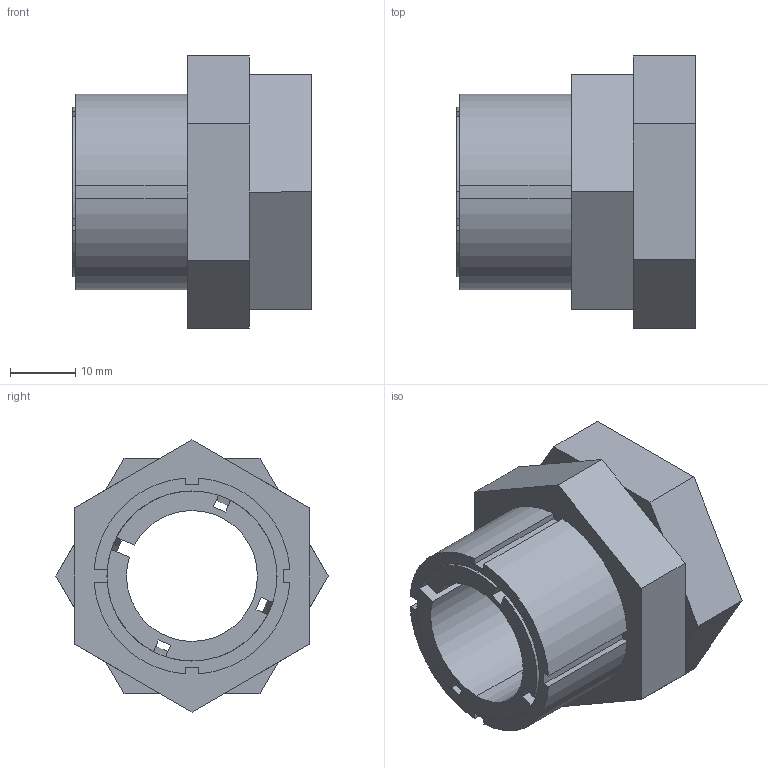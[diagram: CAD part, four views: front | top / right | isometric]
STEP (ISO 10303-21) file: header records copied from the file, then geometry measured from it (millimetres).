
FILE_DESCRIPTION (( 'STEP AP203' ), '1' );
FILE_NAME ('KBS 59 - 20 x 30.STEP', '2015-07-07T21:03:36', ( '' ), ( '' ), 'SwSTEP 2.0', 'SolidWorks 2010', '' );
FILE_SCHEMA (( 'CONFIG_CONTROL_DESIGN' ));
Length unit declared in the file: millimetre
Products named in the file (1): KBS 59 - 20 x 30
Bounding box: 36.5 x 41.57 x 41.57 mm (x, y, z)
Volume: 21178.9 mm3; surface area: 14763.7 mm2
Topology: 3 solids, 3 shells, 78 faces, 204 edges, 132 vertices
Faces by surface type: plane 56, cylinder 14, cone 8
Entity records: 2469 total; most frequent: CARTESIAN_POINT 451, ORIENTED_EDGE 408, DIRECTION 396, EDGE_CURVE 204, LINE 150, VECTOR 150, VERTEX_POINT 132, AXIS2_PLACEMENT_3D 123
